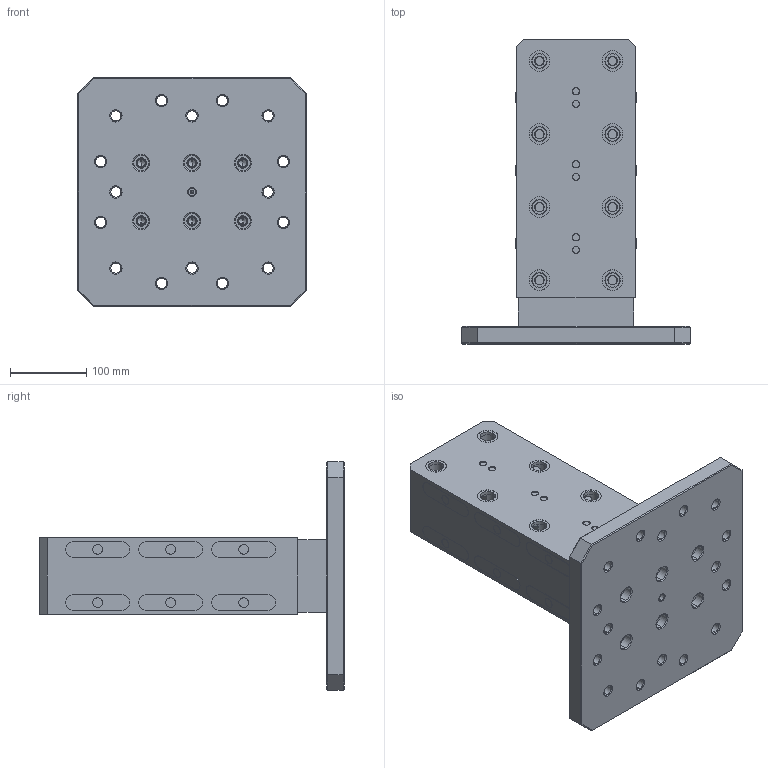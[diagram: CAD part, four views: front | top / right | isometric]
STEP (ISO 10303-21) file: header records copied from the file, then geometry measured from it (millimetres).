
FILE_DESCRIPTION (( 'STEP AP214' ), '1' );
FILE_NAME ('D_RL96A-3002 02222021.STEP', '2021-02-22T16:16:18', ( '' ), ( '' ), 'SwSTEP 2.0', 'SolidWorks 2019', '' );
FILE_SCHEMA (( 'AUTOMOTIVE_DESIGN' ));
Length unit declared in the file: millimetre
Products named in the file (3): D_RL96A-3002B; D_RL96A-3002 02222021; D_RL96A-3002T
Assembly tree (2 placements, depth 2):
  D_RL96A-3002 02222021
    D_RL96A-3002B
    D_RL96A-3002T
Bounding box: 300 x 400 x 300 mm (x, y, z)
Volume: 6942197 mm3; surface area: 658498 mm2
Topology: 2 solids, 2 shells, 1024 faces, 2436 edges, 1550 vertices
Faces by surface type: cylinder 554, plane 324, cone 146
Entity records: 35778 total; most frequent: CARTESIAN_POINT 7975, DIRECTION 5608, ORIENTED_EDGE 4792, EDGE_CURVE 2396, AXIS2_PLACEMENT_3D 2291, VERTEX_POINT 1550, EDGE_LOOP 1290, CIRCLE 1262
